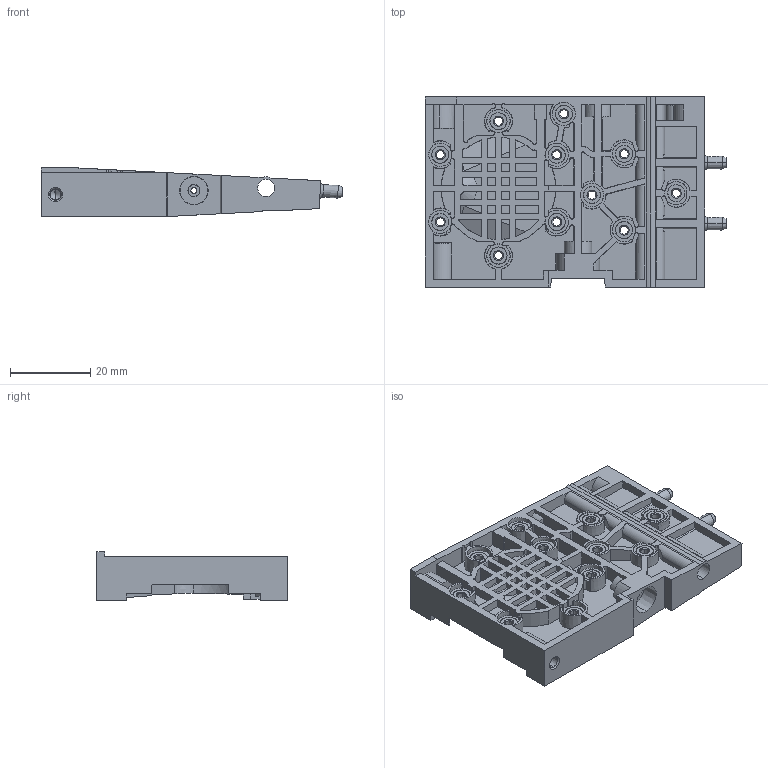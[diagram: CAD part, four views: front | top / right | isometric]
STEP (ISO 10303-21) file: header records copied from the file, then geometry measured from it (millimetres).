
FILE_DESCRIPTION (( 'STEP AP214' ), '1' );
FILE_NAME ('010101_LnG_cartridge_bottom_inserts-RD.STEP', '2023-12-15T22:57:49', ( '' ), ( '' ), 'SwSTEP 2.0', 'SolidWorks 2019', '' );
FILE_SCHEMA (( 'AUTOMOTIVE_DESIGN' ));
Length unit declared in the file: millimetre
Products named in the file (3): 010101_LnG_cartridge_bottom_inserts-RD; 010101-1_LnG_cartridge_bottom_4.35-0.5; 019901_IUC-M2.5-1
Assembly tree (12 placements, depth 2):
  010101_LnG_cartridge_bottom_inserts-RD
    010101-1_LnG_cartridge_bottom_4.35-0.5
    019901_IUC-M2.5-1  x11
Bounding box: 75.05 x 47.4 x 12.1 mm (x, y, z)
Volume: 15422.4 mm3; surface area: 16735.2 mm2
Topology: 12 solids, 12 shells, 1271 faces, 3248 edges, 2090 vertices
Faces by surface type: plane 514, cone 505, cylinder 176, bspline 48, torus 22, sphere 6
Entity records: 33348 total; most frequent: CARTESIAN_POINT 8784, ORIENTED_EDGE 5266, DIRECTION 4702, EDGE_CURVE 2633, VERTEX_POINT 1726, AXIS2_PLACEMENT_3D 1682, VECTOR 1338, LINE 1338
